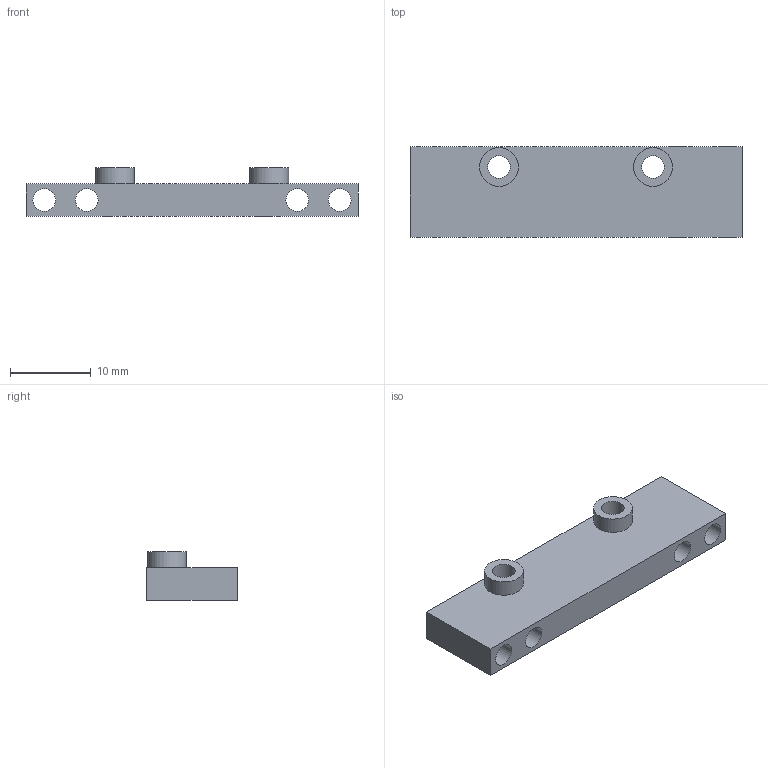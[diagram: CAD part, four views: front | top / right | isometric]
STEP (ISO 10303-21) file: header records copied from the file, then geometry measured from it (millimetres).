
FILE_DESCRIPTION(/* description */ (''),/* implementation_level */ '2;1');
FILE_NAME(/* name */ 'F:/3d-printing/_sr/# Mods/E3D Hotend Mount v41.step',/* time_stamp */ '2021-08-11T10:38:49+02:00',/* author */ (''),/* organization */ (''),/* preprocessor_version */ 'ST-DEVELOPER v18.1',/* originating_system */ 'Autodesk Translation Framework v10.9.0.1377',/* authorisation */ '');
FILE_SCHEMA (('AUTOMOTIVE_DESIGN { 1 0 10303 214 3 1 1 }'));
Length unit declared in the file: millimetre
Products named in the file (1): E3D Hotend Mount
Bounding box: 41 x 11.2 x 6 mm (x, y, z)
Volume: 1559.4 mm3; surface area: 1822.1 mm2
Topology: 1 solids, 1 shells, 16 faces, 36 edges, 24 vertices
Faces by surface type: cylinder 8, plane 8
Full cylindrical faces by diameter (mm): 2.8 x6, 4.8 x2
Entity records: 502 total; most frequent: DIRECTION 86, CARTESIAN_POINT 77, ORIENTED_EDGE 72, EDGE_CURVE 36, AXIS2_PLACEMENT_3D 33, EDGE_LOOP 30, VERTEX_POINT 24, LINE 20
